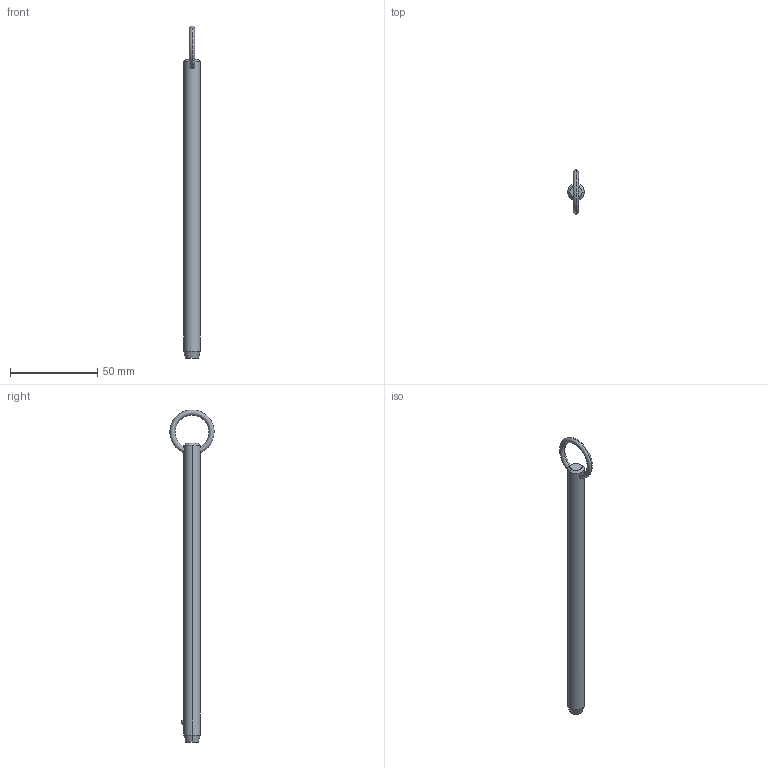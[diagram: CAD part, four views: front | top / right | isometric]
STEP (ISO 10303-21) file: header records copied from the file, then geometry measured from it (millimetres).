
FILE_DESCRIPTION (( 'STEP AP203' ), '1' );
FILE_NAME ('P1250.037-600.step', '2019-07-29T20:14:53', ( '' ), ( '' ), 'SwSTEP 2.0', 'SolidWorks 2017', '' );
FILE_SCHEMA (( 'CONFIG_CONTROL_DESIGN' ));
Length unit declared in the file: millimetre
Products named in the file (1): P1250.037-600
Bounding box: 9.52 x 25.39 x 190.5 mm (x, y, z)
Volume: 12555.1 mm3; surface area: 5769.9 mm2
Topology: 1 solids, 1 shells, 12 faces, 28 edges, 17 vertices
Faces by surface type: cone 4, torus 2, sphere 2, cylinder 2, plane 2
Entity records: 523 total; most frequent: CARTESIAN_POINT 190, DIRECTION 56, ORIENTED_EDGE 48, AXIS2_PLACEMENT_3D 25, EDGE_CURVE 24, VERTEX_POINT 15, EDGE_LOOP 15, FACE_OUTER_BOUND 12
